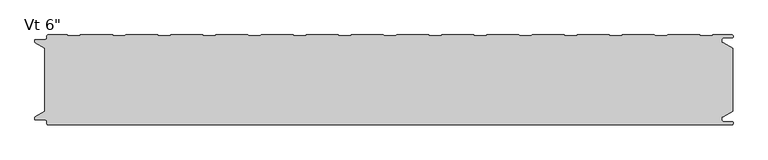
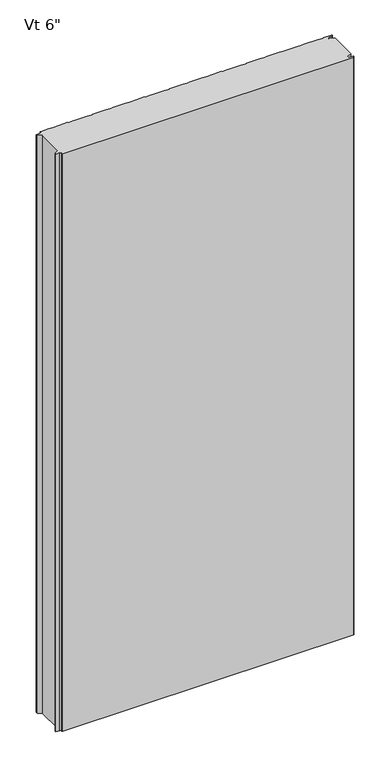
"""IFC4 building model written with IfcOpenShell, lengths in millimetres: plate geometry."""

import ifcopenshell
import ifcopenshell.guid

model = None  # the IFC model being written
_history = None  # IfcOwnerHistory: only IFC2X3 demands one
_inside = {}  # id of a spatial element -> (the spatial element, [elements in it])
_under = {}  # id of a project, library or spatial element -> (it, [spatial elements below it])
_declared = {}  # id of a project -> (the project, [libraries it declares])
_typed = {}  # id of a type object -> (the type object, [elements of that type])
_made_of = {}  # id of a material, layer set ... -> (it, [elements and type objects made of it])


def new_model(schema):
    """Start an empty IFC model of exactly this schema.

    Asked for "IFC4X3", IfcOpenShell would pick the latest addendum, in which some entities
    have other attributes; the version numbers below select the first issue.
    IFC2X3 requires an IfcOwnerHistory on every rooted entity: one is made here for all.
    """
    global model, _history
    if schema == "IFC4X3":
        model = ifcopenshell.file(schema_version=(4, 3, 0, 0))
    else:
        model = ifcopenshell.file(schema=schema)
    _inside.clear()
    _under.clear()
    _declared.clear()
    _typed.clear()
    _made_of.clear()
    _history = None
    if model.schema == "IFC2X3":
        org = make("IfcOrganization", Name="unknown")
        user = make(
            "IfcPersonAndOrganization",
            ThePerson=make("IfcPerson", FamilyName="unknown"),
            TheOrganization=org,
        )
        app = make(
            "IfcApplication",
            ApplicationDeveloper=org,
            Version="unknown",
            ApplicationFullName="unknown",
            ApplicationIdentifier="unknown",
        )
        _history = make(
            "IfcOwnerHistory",
            OwningUser=user,
            OwningApplication=app,
            ChangeAction="ADDED",
            CreationDate=0,
        )
    return model


def make(cls, **values):
    """One entity of the class cls with the attributes given. An attribute that is None is left unset."""
    return model.create_entity(
        cls, **{name: value for name, value in values.items() if value is not None}
    )


def rooted(cls, **values):
    """An entity with a GlobalId (a new one), such as an element, a storey or a relation."""
    return make(cls, GlobalId=ifcopenshell.guid.new(), OwnerHistory=_history, **values)


def si_unit(unit_type, name, prefix=None):
    """IfcSIUnit, for example si_unit("LENGTHUNIT", "METRE", prefix="MILLI")."""
    return make("IfcSIUnit", UnitType=unit_type, Prefix=prefix, Name=name)


def assignment(units):
    """IfcUnitAssignment: the units of a project."""
    return None if units is None else make("IfcUnitAssignment", Units=units)


def point(xyz):
    """IfcCartesianPoint."""
    return None if xyz is None else make("IfcCartesianPoint", Coordinates=xyz)


def direction(xyz):
    """IfcDirection."""
    return None if xyz is None else make("IfcDirection", DirectionRatios=xyz)


def frame(location, z_axis=None, x_axis=None):
    """IfcAxis2Placement3D, a coordinate frame: its origin and axes. An axis left out is left unset."""
    return make(
        "IfcAxis2Placement3D",
        Location=point(location),
        Axis=direction(z_axis),
        RefDirection=direction(x_axis),
    )


def origin():
    """The frame at (0, 0, 0) with its axes left unset."""
    return frame((0.0, 0.0, 0.0))


def place(relative_to, where):
    """IfcLocalPlacement: puts the frame where relative to a parent placement (None: the world)."""
    return make(
        "IfcLocalPlacement", PlacementRelTo=relative_to, RelativePlacement=where
    )


def context(
    kind, dimensions, precision=None, world=None, true_north=None, identifier=None
):
    """IfcGeometricRepresentationContext, for example the 3D "Model" context."""
    return make(
        "IfcGeometricRepresentationContext",
        ContextIdentifier=identifier,
        ContextType=kind,
        CoordinateSpaceDimension=dimensions,
        Precision=precision,
        WorldCoordinateSystem=world,
        TrueNorth=true_north,
    )


def project(units=None, contexts=None):
    """IfcProject with its units and contexts."""
    return rooted(
        "IfcProject",
        Name="project",
        RepresentationContexts=contexts,
        UnitsInContext=assignment(units),
    )


def spatial(cls, under=None, at=None, **own):
    """A site, building, storey or space (cls), placed at a placement, below another one or the project."""
    s = rooted(cls, ObjectPlacement=at, **own)
    if under is not None:
        _under.setdefault(under.id(), (under, []))[1].append(s)
    return s


def polyline(points):
    """IfcPolyline through the points."""
    return make("IfcPolyline", Points=[point(p) for p in points])


def circle_curve(where, radius):
    """IfcCircle in the frame where."""
    return make("IfcCircle", Position=where, Radius=radius)


def shape(context_of_items, identifier, shape_type, items):
    """IfcShapeRepresentation: the items that make up one representation, for example the "Body"."""
    return make(
        "IfcShapeRepresentation",
        ContextOfItems=context_of_items,
        RepresentationIdentifier=identifier,
        RepresentationType=shape_type,
        Items=items,
    )


def source(mapping_origin, context_of_items, identifier, shape_type, items):
    """IfcRepresentationMap: a shape defined once, which mapped items show again and again."""
    return make(
        "IfcRepresentationMap",
        MappingOrigin=mapping_origin,
        MappedRepresentation=shape(context_of_items, identifier, shape_type, items),
    )


def transform(
    local_origin,
    x_axis=None,
    y_axis=None,
    z_axis=None,
    scale=None,
    scale2=None,
    scale3=None,
    uniform=True,
):
    """IfcCartesianTransformationOperator3D, or its non-uniform kind. x_axis, y_axis, z_axis: its Axis1, 2, 3."""
    if uniform:
        return make(
            "IfcCartesianTransformationOperator3D",
            Axis1=direction(x_axis),
            Axis2=direction(y_axis),
            LocalOrigin=point(local_origin),
            Scale=scale,
            Axis3=direction(z_axis),
        )
    return make(
        "IfcCartesianTransformationOperator3DnonUniform",
        Axis1=direction(x_axis),
        Axis2=direction(y_axis),
        LocalOrigin=point(local_origin),
        Scale=scale,
        Axis3=direction(z_axis),
        Scale2=scale2,
        Scale3=scale3,
    )


def mapped(mapping_source, mapping_target):
    """IfcMappedItem: shows the shape of a source again, moved by a transform."""
    return make(
        "IfcMappedItem", MappingSource=mapping_source, MappingTarget=mapping_target
    )


def made_of(thing, what):
    """Note that an element or type object is made of a material, layer set ...; save() writes the relation."""
    if what is not None:
        _made_of.setdefault(what.id(), (what, []))[1].append(thing)
    return thing


def element(
    cls,
    number,
    at=None,
    inside=None,
    cuts=None,
    type_object=None,
    material=None,
    context=None,
    identifier="Body",
    shape_type=None,
    held_by="IfcProductDefinitionShape",
    body=None,
    shapes=None,
    **own,
):
    """One element of the class cls, such as IfcWall. Its Tag is "e" and its number.

    at: its placement. inside: the storey or other place that contains it. cuts: it is an
    opening in that element (IfcRelVoidsElement). A single representation is given by context,
    identifier, shape_type and body (its items); several are given by shapes. held_by: the class
    of the entity that holds the representations. save() writes the other relations.
    """
    e = rooted(cls, Tag="e%d" % number, ObjectPlacement=at, **own)
    if body is not None:
        shapes = [shape(context, identifier, shape_type, body)]
    if shapes is not None:
        e.Representation = make(held_by, Representations=shapes)
    if inside is not None:
        _inside.setdefault(inside.id(), (inside, []))[1].append(e)
    if cuts is not None:
        rooted(
            "IfcRelVoidsElement", RelatingBuildingElement=cuts, RelatedOpeningElement=e
        )
    if type_object is not None:
        _typed.setdefault(type_object.id(), (type_object, []))[1].append(e)
    return made_of(e, material)


def aggregate(whole, parts):
    """IfcRelAggregates: a whole, such as a stair, and the parts it consists of."""
    return rooted("IfcRelAggregates", RelatingObject=whole, RelatedObjects=parts)


def save(model, path):
    """Write the relations noted so far, then the file.

    IfcRelAggregates (storeys below a building ...), IfcRelContainedInSpatialStructure (elements
    in a storey), IfcRelDefinesByType, IfcRelAssociatesMaterial and IfcRelDeclares: one each for
    every whole, place, type object, material and project.
    """
    for whole, parts in _under.values():
        aggregate(whole, parts)
    for where, things in _inside.values():
        rooted(
            "IfcRelContainedInSpatialStructure",
            RelatedElements=things,
            RelatingStructure=where,
        )
    for kind, things in _typed.values():
        rooted("IfcRelDefinesByType", RelatedObjects=things, RelatingType=kind)
    for what, things in _made_of.values():
        rooted("IfcRelAssociatesMaterial", RelatedObjects=things, RelatingMaterial=what)
    for by, libraries in _declared.values():
        rooted("IfcRelDeclares", RelatingContext=by, RelatedDefinitions=libraries)
    model.write(path)


def plane_surface(at):
    """IfcPlane: the flat surface through the origin of the frame at, square to its z axis."""
    return make("IfcPlane", Position=at)


def cylinder_surface(at, radius):
    """IfcCylindricalSurface: all points at the distance radius from the z axis of the frame at."""
    return make("IfcCylindricalSurface", Position=at, Radius=radius)


def revolved_surface(curve, axis_point, axis_direction):
    """IfcSurfaceOfRevolution: the curve turned about the line through axis_point along axis_direction."""
    return make(
        "IfcSurfaceOfRevolution",
        SweptCurve=make("IfcArbitraryOpenProfileDef", ProfileType="CURVE", Curve=curve),
        AxisPosition=make("IfcAxis1Placement", Location=point(axis_point), Axis=direction(axis_direction)),
    )


def advanced_brep(points, edges, surfaces, faces):
    """IfcAdvancedBrep: a solid bounded by faces that lie on surfaces and meet in shared edges.

    An edge is (start, end): straight between two places in points (the first is 0);
    or (start, end, curve); or (start, end, curve, False) where it runs against its curve.
    A face is (place in surfaces, loops), or (place, loops, False) where it looks against
    its surface's normal. A loop lists edges by number (the first is 1), with a minus sign
    where the edge is run from its end to its start. The first loop is the outer one.
    """
    corners = [point(p) for p in points]
    vertices = [make("IfcVertexPoint", VertexGeometry=c) for c in corners]
    made = []
    for start, end, *more in edges:
        made.append(
            make(
                "IfcEdgeCurve",
                EdgeStart=vertices[start],
                EdgeEnd=vertices[end],
                EdgeGeometry=more[0] if more else make("IfcPolyline", Points=[corners[start], corners[end]]),
                SameSense=more[1] if len(more) > 1 else True,
            )
        )
    hull = []
    for where, loops, *sense in faces:
        bounds = []
        for j, loop in enumerate(loops):
            ring = [make("IfcOrientedEdge", EdgeElement=made[abs(k) - 1], Orientation=k > 0) for k in loop]
            bounds.append(
                make(
                    "IfcFaceOuterBound" if j == 0 else "IfcFaceBound",
                    Bound=make("IfcEdgeLoop", EdgeList=ring),
                    Orientation=True,
                )
            )
        hull.append(make("IfcAdvancedFace", Bounds=bounds, FaceSurface=surfaces[where], SameSense=sense[0] if sense else True))
    return make("IfcAdvancedBrep", Outer=make("IfcClosedShell", CfsFaces=hull))


def plate_39fb91ab(model_context):
    return source(origin(), model_context, "Body", "AdvancedBrep", [
        advanced_brep(
        [(-572.4125501, -149.4227194, 2400.0), (-570.4352761, -151.3999935, 2400.0), (574.5475652, -151.4, 2400.0), (576.5248337, -149.4227315, 2400.0), (576.5248337, -148.3806329, 2400.0), (574.5475652, -146.4033643, 2400.0), (560.3591802, -146.4033643, 2400.0), (557.7713036, -143.8154878, 2400.0), (557.7713036, -139.4950697, 2400.0), (557.1628365, -138.9060762, 2400.0), (554.7857432, -138.9060762, 2400.0), (554.7857432, -137.9066023, 2400.0), (560.2280123, -137.9066023, 2400.0), (576.2625, -128.6490865, 2400.0), (576.2625, -23.7509179, 2400.0), (560.2280123, -14.4934021, 2400.0), (554.7857432, -14.4934021, 2400.0), (554.7857432, -13.4939282, 2400.0), (557.1628365, -13.4939282, 2400.0), (557.7713036, -12.9049347, 2400.0), (557.7713036, -8.5845165, 2400.0), (560.3591802, -5.99664, 2400.0), (574.5475652, -5.99664, 2400.0), (576.5248337, -4.0193715, 2400.0), (576.5248337, -2.9772729, 2400.0), (574.5475652, -1.0000044, 2400.0), (542.3760351, -1.0000044, 2400.0), (541.3035142, -2.1911595, 2400.0), (521.5205195, -2.1911595, 2400.0), (520.4479947, -1.0, 2400.0), (466.7534187, -1.0, 2400.0), (465.6808939, -2.1911595, 2400.0), (445.8978992, -2.1911595, 2400.0), (444.8253744, -1.0, 2400.0), (391.1307985, -1.0, 2400.0), (390.0582736, -2.1911595, 2400.0), (370.275279, -2.1911595, 2400.0), (369.2027541, -1.0, 2400.0), (315.5081782, -1.0, 2400.0), (314.4356534, -2.1911595, 2400.0), (294.6526587, -2.1911595, 2400.0), (293.5801339, -1.0, 2400.0), (239.885558, -1.0, 2400.0), (238.8130331, -2.1911595, 2400.0), (219.0300384, -2.1911595, 2400.0), (217.9575136, -1.0, 2400.0), (164.2629377, -1.0, 2400.0), (163.1904129, -2.1911595, 2400.0), (143.4074182, -2.1911595, 2400.0), (142.3348933, -1.0, 2400.0), (88.6403174, -1.0, 2400.0), (87.5677926, -2.1911595, 2400.0), (67.7847979, -2.1911595, 2400.0), (66.7122731, -1.0, 2400.0), (13.0176972, -1.0, 2400.0), (11.9451723, -2.1911595, 2400.0), (-7.8378224, -2.1911595, 2400.0), (-8.9103472, -1.0, 2400.0), (-62.6049231, -1.0, 2400.0), (-63.6774479, -2.1911595, 2400.0), (-83.4604426, -2.1911595, 2400.0), (-84.5329675, -1.0, 2400.0), (-138.2275434, -1.0, 2400.0), (-139.3000682, -2.1911595, 2400.0), (-159.0830629, -2.1911595, 2400.0), (-160.1555877, -1.0, 2400.0), (-213.8501636, -1.0, 2400.0), (-214.9226885, -2.1911595, 2400.0), (-234.7056831, -2.1911595, 2400.0), (-235.778208, -1.0, 2400.0), (-289.4727839, -1.0, 2400.0), (-290.5453087, -2.1911595, 2400.0), (-310.3283034, -2.1911595, 2400.0), (-311.4008282, -1.0, 2400.0), (-365.0954042, -1.0, 2400.0), (-366.167929, -2.1911595, 2400.0), (-385.9509237, -2.1911595, 2400.0), (-387.0234485, -1.0, 2400.0), (-440.7180244, -1.0, 2400.0), (-441.7905493, -2.1911595, 2400.0), (-461.5735439, -2.1911595, 2400.0), (-462.6460688, -1.0, 2400.0), (-516.3406447, -1.0, 2400.0), (-517.4131695, -2.1911595, 2400.0), (-537.1961642, -2.1911595, 2400.0), (-538.268689, -1.0000109, 2400.0), (-570.4352761, -1.0000109, 2400.0), (-572.4125501, -2.9772849, 2400.0), (-572.4125501, -5.2691749, 2400.0), (-576.3898173, -9.246442, 2400.0), (-591.9862417, -9.246442, 2400.0), (-592.5741186, -9.8343189, 2400.0), (-592.5741186, -12.9058679, 2400.0), (-591.986242, -13.4937446, 2400.0), (-589.6312064, -13.4937446, 2400.0), (-589.6312064, -14.4937446, 2400.0), (-591.9207851, -14.4937446, 2400.0), (-576.2625, -23.7509179, 2400.0), (-576.2625, -128.6490865, 2400.0), (-591.9207851, -137.9062598, 2400.0), (-589.6312064, -137.9062598, 2400.0), (-589.6312064, -138.9062598, 2400.0), (-591.986242, -138.9062598, 2400.0), (-592.5741186, -139.4941365, 2400.0), (-592.5741186, -142.5656854, 2400.0), (-591.9862417, -143.1535623, 2400.0), (-576.3898173, -143.1535623, 2400.0), (-572.4125501, -147.1308295, 2400.0), (-572.4125501, -149.4227194, 0.0), (-572.4125501, -147.1308295, 0.0), (-576.3898173, -143.1535623, 0.0), (-591.9862417, -143.1535623, 0.0), (-592.5741186, -142.5656854, 0.0), (-592.5741186, -139.4941365, 0.0), (-591.986242, -138.9062598, 0.0), (-589.6312064, -138.9062598, 0.0), (-589.6312064, -137.9062598, 0.0), (-591.9207851, -137.9062598, 0.0), (-576.2625, -128.6490865, 0.0), (-576.2625, -23.7509179, 0.0), (-591.9207851, -14.4937446, 0.0), (-589.6312064, -14.4937446, 0.0), (-589.6312064, -13.4937446, 0.0), (-591.986242, -13.4937446, 0.0), (-592.5741186, -12.9058679, 0.0), (-592.5741186, -9.8343189, 0.0), (-591.9862417, -9.246442, 0.0), (-576.3898173, -9.246442, 0.0), (-572.4125501, -5.2691749, 0.0), (-572.4125501, -2.9772849, 0.0), (-570.4352761, -1.0000109, 0.0), (-538.268689, -1.0000109, 0.0), (-537.1961642, -2.1911595, 0.0), (-517.4131695, -2.1911595, 0.0), (-516.3406447, -1.0, 0.0), (-462.6460688, -1.0, 0.0), (-461.5735439, -2.1911595, 0.0), (-441.7905493, -2.1911595, 0.0), (-440.7180244, -1.0, 0.0), (-387.0234485, -1.0, 0.0), (-385.9509237, -2.1911595, 0.0), (-366.167929, -2.1911595, 0.0), (-365.0954042, -1.0, 0.0), (-311.4008282, -1.0, 0.0), (-310.3283034, -2.1911595, 0.0), (-290.5453087, -2.1911595, 0.0), (-289.4727839, -1.0, 0.0), (-235.778208, -1.0, 0.0), (-234.7056831, -2.1911595, 0.0), (-214.9226885, -2.1911595, 0.0), (-213.8501636, -1.0, 0.0), (-160.1555877, -1.0, 0.0), (-159.0830629, -2.1911595, 0.0), (-139.3000682, -2.1911595, 0.0), (-138.2275434, -1.0, 0.0), (-84.5329675, -1.0, 0.0), (-83.4604426, -2.1911595, 0.0), (-63.6774479, -2.1911595, 0.0), (-62.6049231, -1.0, 0.0), (-8.9103472, -1.0, 0.0), (-7.8378224, -2.1911595, 0.0), (11.9451723, -2.1911595, 0.0), (13.0176972, -1.0, 0.0), (66.7122731, -1.0, 0.0), (67.7847979, -2.1911595, 0.0), (87.5677926, -2.1911595, 0.0), (88.6403174, -1.0, 0.0), (142.3348933, -1.0, 0.0), (143.4074182, -2.1911595, 0.0), (163.1904129, -2.1911595, 0.0), (164.2629377, -1.0, 0.0), (217.9575136, -1.0, 0.0), (219.0300384, -2.1911595, 0.0), (238.8130331, -2.1911595, 0.0), (239.885558, -1.0, 0.0), (293.5801339, -1.0, 0.0), (294.6526587, -2.1911595, 0.0), (314.4356534, -2.1911595, 0.0), (315.5081782, -1.0, 0.0), (369.2027541, -1.0, 0.0), (370.275279, -2.1911595, 0.0), (390.0582736, -2.1911595, 0.0), (391.1307985, -1.0, 0.0), (444.8253744, -1.0, 0.0), (445.8978992, -2.1911595, 0.0), (465.6808939, -2.1911595, 0.0), (466.7534187, -1.0, 0.0), (520.4479947, -1.0, 0.0), (521.5205195, -2.1911595, 0.0), (541.3035142, -2.1911595, 0.0), (542.3760351, -1.0000044, 0.0), (574.5475652, -1.0000044, 0.0), (576.5248337, -2.9772729, 0.0), (576.5248337, -4.0193715, 0.0), (574.5475652, -5.99664, 0.0), (560.3591802, -5.99664, 0.0), (557.7713036, -8.5845165, 0.0), (557.7713036, -12.9049347, 0.0), (557.1628365, -13.4939282, 0.0), (554.7857432, -13.4939282, 0.0), (554.7857432, -14.4934021, 0.0), (560.2280123, -14.4934021, 0.0), (576.2625, -23.7509179, 0.0), (576.2625, -128.6490865, 0.0), (560.2280123, -137.9066023, 0.0), (554.7857432, -137.9066023, 0.0), (554.7857432, -138.9060762, 0.0), (557.1628365, -138.9060762, 0.0), (557.7713036, -139.4950697, 0.0), (557.7713036, -143.8154878, 0.0), (560.3591802, -146.4033643, 0.0), (574.5475652, -146.4033643, 0.0), (576.5248337, -148.3806329, 0.0), (576.5248337, -149.4227315, 0.0), (574.5475652, -151.4, 0.0), (-570.4352761, -151.4, 0.0)],
        [
            (0, 1, circle_curve(frame((-570.4352761, -149.4227194, 2400.0), z_axis=(0.0, 0.0, 1.0), x_axis=(-1.0, 0.0, 0.0)), 1.977274)),
            (1, 2),
            (2, 3, circle_curve(frame((574.5475652, -149.4227315, 2400.0), z_axis=(0.0, 0.0, 1.0), x_axis=(-1.0, 0.0, 0.0)), 1.9772685)),
            (3, 4),
            (4, 5, circle_curve(frame((574.5475652, -148.3806329, 2400.0), z_axis=(0.0, 0.0, 1.0), x_axis=(-1.0, 0.0, 0.0)), 1.9772685)),
            (5, 6),
            (6, 7, circle_curve(frame((560.3591802, -143.8154878, 2400.0), z_axis=(0.0, 0.0, -1.0), x_axis=(-1.0, 0.0, 0.0)), 2.5878765)),
            (7, 8),
            (8, 9, circle_curve(frame((557.1819985, -139.4950697, 2400.0), z_axis=(0.0, 0.0, 1.0), x_axis=(-1.0, 0.0, 0.0)), 0.5893051)),
            (9, 10),
            (10, 11),
            (11, 12),
            (12, 13),
            (13, 14),
            (14, 15),
            (15, 16),
            (16, 17),
            (17, 18),
            (18, 19, circle_curve(frame((557.1819985, -12.9049347, 2400.0), z_axis=(0.0, 0.0, 1.0), x_axis=(0.0, 1.0, 0.0)), 0.5893051)),
            (19, 20),
            (20, 21, circle_curve(frame((560.3591802, -8.5845165, 2400.0), z_axis=(0.0, 0.0, -1.0), x_axis=(0.0, 1.0, 0.0)), 2.5878765)),
            (21, 22),
            (22, 23, circle_curve(frame((574.5475652, -4.0193715, 2400.0), z_axis=(0.0, 0.0, 1.0), x_axis=(0.0, 1.0, 0.0)), 1.9772685)),
            (23, 24),
            (24, 25, circle_curve(frame((574.5475652, -2.9772729, 2400.0), z_axis=(0.0, 0.0, 1.0), x_axis=(0.0, 1.0, 0.0)), 1.9772685)),
            (25, 26),
            (26, 27),
            (27, 28),
            (28, 29),
            (29, 30),
            (30, 31),
            (31, 32),
            (32, 33),
            (33, 34),
            (34, 35),
            (35, 36),
            (36, 37),
            (37, 38),
            (38, 39),
            (39, 40),
            (40, 41),
            (41, 42),
            (42, 43),
            (43, 44),
            (44, 45),
            (45, 46),
            (46, 47),
            (47, 48),
            (48, 49),
            (49, 50),
            (50, 51),
            (51, 52),
            (52, 53),
            (53, 54),
            (54, 55),
            (55, 56),
            (56, 57),
            (57, 58),
            (58, 59),
            (59, 60),
            (60, 61),
            (61, 62),
            (62, 63),
            (63, 64),
            (64, 65),
            (65, 66),
            (66, 67),
            (67, 68),
            (68, 69),
            (69, 70),
            (70, 71),
            (71, 72),
            (72, 73),
            (73, 74),
            (74, 75),
            (75, 76),
            (76, 77),
            (77, 78),
            (78, 79),
            (79, 80),
            (80, 81),
            (81, 82),
            (82, 83),
            (83, 84),
            (84, 85),
            (85, 86),
            (86, 87, circle_curve(frame((-570.4352761, -2.9772849, 2400.0), z_axis=(0.0, 0.0, 1.0), x_axis=(0.0, 1.0, 0.0)), 1.977274)),
            (87, 88),
            (88, 89, circle_curve(frame((-576.3898173, -5.2691749, 2400.0), z_axis=(0.0, 0.0, -1.0), x_axis=(0.0, 1.0, 0.0)), 3.9772671)),
            (89, 90),
            (90, 91, circle_curve(frame((-591.9862417, -9.8343189, 2400.0), z_axis=(0.0, 0.0, 1.0), x_axis=(0.0, 1.0, 0.0)), 0.5878769)),
            (91, 92),
            (92, 93, circle_curve(frame((-591.986242, -12.9058679, 2400.0), z_axis=(0.0, 0.0, 1.0), x_axis=(0.0, 1.0, 0.0)), 0.5878766)),
            (93, 94),
            (94, 95),
            (95, 96),
            (96, 97),
            (97, 98),
            (98, 99),
            (99, 100),
            (100, 101),
            (101, 102),
            (102, 103, circle_curve(frame((-591.986242, -139.4941365, 2400.0), z_axis=(0.0, 0.0, 1.0), x_axis=(-1.0, 0.0, 0.0)), 0.5878766)),
            (103, 104),
            (104, 105, circle_curve(frame((-591.9862417, -142.5656854, 2400.0), z_axis=(0.0, 0.0, 1.0), x_axis=(-1.0, 0.0, 0.0)), 0.5878769)),
            (105, 106),
            (106, 107, circle_curve(frame((-576.3898173, -147.1308295, 2400.0), z_axis=(0.0, 0.0, -1.0), x_axis=(-1.0, 0.0, 0.0)), 3.9772671)),
            (107, 0),
            (108, 109),
            (109, 110, circle_curve(frame((-576.3898173, -147.1308295, 0.0), z_axis=(0.0, 0.0, 1.0), x_axis=(-1.0, 0.0, 0.0)), 3.9772671)),
            (110, 111),
            (111, 112, circle_curve(frame((-591.9862417, -142.5656854, 0.0), z_axis=(0.0, 0.0, -1.0), x_axis=(-1.0, 0.0, 0.0)), 0.5878769)),
            (112, 113),
            (113, 114, circle_curve(frame((-591.986242, -139.4941365, 0.0), z_axis=(0.0, 0.0, -1.0), x_axis=(-1.0, 0.0, 0.0)), 0.5878766)),
            (114, 115),
            (115, 116),
            (116, 117),
            (117, 118),
            (118, 119),
            (119, 120),
            (120, 121),
            (121, 122),
            (122, 123),
            (123, 124, circle_curve(frame((-591.986242, -12.9058679, 0.0), z_axis=(0.0, 0.0, -1.0), x_axis=(0.0, 1.0, 0.0)), 0.5878766)),
            (124, 125),
            (125, 126, circle_curve(frame((-591.9862417, -9.8343189, 0.0), z_axis=(0.0, 0.0, -1.0), x_axis=(0.0, 1.0, 0.0)), 0.5878769)),
            (126, 127),
            (127, 128, circle_curve(frame((-576.3898173, -5.2691749, 0.0), z_axis=(0.0, 0.0, 1.0), x_axis=(0.0, 1.0, 0.0)), 3.9772671)),
            (128, 129),
            (129, 130, circle_curve(frame((-570.4352761, -2.9772849, 0.0), z_axis=(0.0, 0.0, -1.0), x_axis=(0.0, 1.0, 0.0)), 1.977274)),
            (130, 131),
            (131, 132),
            (132, 133),
            (133, 134),
            (134, 135),
            (135, 136),
            (136, 137),
            (137, 138),
            (138, 139),
            (139, 140),
            (140, 141),
            (141, 142),
            (142, 143),
            (143, 144),
            (144, 145),
            (145, 146),
            (146, 147),
            (147, 148),
            (148, 149),
            (149, 150),
            (150, 151),
            (151, 152),
            (152, 153),
            (153, 154),
            (154, 155),
            (155, 156),
            (156, 157),
            (157, 158),
            (158, 159),
            (159, 160),
            (160, 161),
            (161, 162),
            (162, 163),
            (163, 164),
            (164, 165),
            (165, 166),
            (166, 167),
            (167, 168),
            (168, 169),
            (169, 170),
            (170, 171),
            (171, 172),
            (172, 173),
            (173, 174),
            (174, 175),
            (175, 176),
            (176, 177),
            (177, 178),
            (178, 179),
            (179, 180),
            (180, 181),
            (181, 182),
            (182, 183),
            (183, 184),
            (184, 185),
            (185, 186),
            (186, 187),
            (187, 188),
            (188, 189),
            (189, 190),
            (190, 191),
            (191, 192, circle_curve(frame((574.5475652, -2.9772729, 0.0), z_axis=(0.0, 0.0, -1.0), x_axis=(0.0, 1.0, 0.0)), 1.9772685)),
            (192, 193),
            (193, 194, circle_curve(frame((574.5475652, -4.0193715, 0.0), z_axis=(0.0, 0.0, -1.0), x_axis=(0.0, 1.0, 0.0)), 1.9772685)),
            (194, 195),
            (195, 196, circle_curve(frame((560.3591802, -8.5845165, 0.0), z_axis=(0.0, 0.0, 1.0), x_axis=(0.0, 1.0, 0.0)), 2.5878765)),
            (196, 197),
            (197, 198, circle_curve(frame((557.1819985, -12.9049347, 0.0), z_axis=(0.0, 0.0, -1.0), x_axis=(0.0, 1.0, 0.0)), 0.5893051)),
            (198, 199),
            (199, 200),
            (200, 201),
            (201, 202),
            (202, 203),
            (203, 204),
            (204, 205),
            (205, 206),
            (206, 207),
            (207, 208, circle_curve(frame((557.1819985, -139.4950697, 0.0), z_axis=(0.0, 0.0, -1.0), x_axis=(-1.0, 0.0, 0.0)), 0.5893051)),
            (208, 209),
            (209, 210, circle_curve(frame((560.3591802, -143.8154878, 0.0), z_axis=(0.0, 0.0, 1.0), x_axis=(-1.0, 0.0, 0.0)), 2.5878765)),
            (210, 211),
            (211, 212, circle_curve(frame((574.5475652, -148.3806329, 0.0), z_axis=(0.0, 0.0, -1.0), x_axis=(-1.0, 0.0, 0.0)), 1.9772685)),
            (212, 213),
            (213, 214, circle_curve(frame((574.5475652, -149.4227315, 0.0), z_axis=(0.0, 0.0, -1.0), x_axis=(-1.0, 0.0, 0.0)), 1.9772685)),
            (214, 215),
            (215, 108, circle_curve(frame((-570.4352761, -149.4227194, 0.0), z_axis=(0.0, 0.0, -1.0), x_axis=(-1.0, 0.0, 0.0)), 1.977274)),
            (97, 119),
            (118, 98),
            (13, 203),
            (202, 14),
            (27, 189),
            (188, 28),
            (26, 190),
            (25, 191),
            (24, 192),
            (23, 193),
            (22, 194),
            (21, 195),
            (20, 196),
            (19, 197),
            (18, 198),
            (17, 199),
            (16, 200),
            (15, 201),
            (96, 120),
            (95, 121),
            (94, 122),
            (93, 123),
            (92, 124),
            (91, 125),
            (90, 126),
            (89, 127),
            (88, 128),
            (87, 129),
            (86, 130),
            (85, 131),
            (84, 132),
            (83, 133),
            (82, 134),
            (81, 135),
            (80, 136),
            (79, 137),
            (78, 138),
            (77, 139),
            (76, 140),
            (75, 141),
            (74, 142),
            (73, 143),
            (72, 144),
            (71, 145),
            (70, 146),
            (69, 147),
            (68, 148),
            (67, 149),
            (66, 150),
            (65, 151),
            (64, 152),
            (63, 153),
            (62, 154),
            (61, 155),
            (60, 156),
            (59, 157),
            (58, 158),
            (57, 159),
            (56, 160),
            (55, 161),
            (54, 162),
            (53, 163),
            (52, 164),
            (51, 165),
            (50, 166),
            (49, 167),
            (48, 168),
            (47, 169),
            (46, 170),
            (45, 171),
            (44, 172),
            (43, 173),
            (42, 174),
            (41, 175),
            (40, 176),
            (39, 177),
            (38, 178),
            (37, 179),
            (36, 180),
            (35, 181),
            (34, 182),
            (33, 183),
            (32, 184),
            (31, 185),
            (30, 186),
            (29, 187),
            (107, 109),
            (108, 0),
            (106, 110),
            (105, 111),
            (104, 112),
            (103, 113),
            (102, 114),
            (101, 115),
            (100, 116),
            (99, 117),
            (12, 204),
            (11, 205),
            (10, 206),
            (9, 207),
            (8, 208),
            (7, 209),
            (6, 210),
            (5, 211),
            (4, 212),
            (3, 213),
            (2, 214),
            (1, 215),
        ],
        [
            plane_surface(frame((0.0, -151.4, 2400.0), z_axis=(0.0, 0.0, 1.0), x_axis=(0.0, -1.0, 0.0))),
            plane_surface(frame((0.0, -151.4, 0.0), z_axis=(0.0, 0.0, -1.0), x_axis=(0.0, -1.0, 0.0))),
            plane_surface(frame((-576.2625, -128.6490865, 2400.0), z_axis=(-1.0, 0.0, 0.0), x_axis=(0.0, 0.0, -1.0))),
            plane_surface(frame((576.2625, -23.7509179, 2400.0), z_axis=(1.0, 0.0, 0.0), x_axis=(0.0, 0.0, -1.0))),
            plane_surface(frame((521.5205195, -2.1911595, 2400.0), z_axis=(0.0, 1.0, 0.0), x_axis=(0.0, 0.0, -1.0))),
            plane_surface(frame((541.3035142, -2.1911595, 2400.0), z_axis=(-0.7431448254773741, 0.6691306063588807, 0.0), x_axis=(0.0, 0.0, -1.0))),
            plane_surface(frame((542.3760351, -1.0000044, 2400.0), z_axis=(0.0, 1.0, 0.0), x_axis=(0.0, 0.0, -1.0))),
            cylinder_surface(frame((574.5475652, -2.9772729, 2400.0), z_axis=(0.0, 0.0, 1.0), x_axis=(0.0, 1.0, 0.0)), 1.9772685),
            plane_surface(frame((576.5248337, -2.9772729, 2400.0), z_axis=(1.0, 0.0, 0.0), x_axis=(0.0, 0.0, -1.0))),
            cylinder_surface(frame((574.5475652, -4.0193715, 2400.0), z_axis=(0.0, 0.0, 1.0), x_axis=(0.0, 1.0, 0.0)), 1.9772685),
            plane_surface(frame((574.5475652, -5.99664, 2400.0), z_axis=(0.0, -1.0, 0.0), x_axis=(0.0, 0.0, -1.0))),
            revolved_surface(polyline([(560.3591802, -5.996639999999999, 0.0), (560.3591802, -5.996639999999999, 2400.0)]), (560.3591802, -8.5845165, 2400.0), (0.0, 0.0, -1.0)),
            plane_surface(frame((557.7713036, -8.5845165, 2400.0), z_axis=(1.0, 0.0, 0.0), x_axis=(0.0, 0.0, -1.0))),
            cylinder_surface(frame((557.1819985, -12.9049347, 2400.0), z_axis=(0.0, 0.0, 1.0), x_axis=(0.0, 1.0, 0.0)), 0.5893051),
            plane_surface(frame((557.1628365, -13.4939282, 2400.0), z_axis=(0.0, -1.0, 0.0), x_axis=(0.0, 0.0, -1.0))),
            plane_surface(frame((554.7857432, -13.4939282, 2400.0), z_axis=(1.0, 0.0, 0.0), x_axis=(0.0, 0.0, -1.0))),
            plane_surface(frame((554.7857432, -14.4934021, 2400.0), z_axis=(0.0, 1.0, 0.0), x_axis=(0.0, 0.0, -1.0))),
            plane_surface(frame((560.2280123, -14.4934021, 2400.0), z_axis=(0.5000000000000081, 0.866025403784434, 0.0), x_axis=(0.0, 0.0, -1.0))),
            plane_surface(frame((-576.2625, -23.7509179, 2400.0), z_axis=(-0.5089147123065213, -0.860816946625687, 0.0), x_axis=(0.0, 0.0, -1.0))),
            plane_surface(frame((-591.9207851, -14.4937446, 2400.0), z_axis=(0.0, 1.0, 0.0), x_axis=(0.0, 0.0, -1.0))),
            plane_surface(frame((-589.6312064, -14.4937446, 2400.0), z_axis=(-1.0, 0.0, 0.0), x_axis=(0.0, 0.0, -1.0))),
            plane_surface(frame((-589.6312064, -13.4937446, 2400.0), z_axis=(0.0, -1.0, 0.0), x_axis=(0.0, 0.0, -1.0))),
            cylinder_surface(frame((-591.986242, -12.9058679, 2400.0), z_axis=(0.0, 0.0, 1.0), x_axis=(0.0, 1.0, 0.0)), 0.5878766),
            plane_surface(frame((-592.5741186, -12.9058679, 2400.0), z_axis=(-1.0, 0.0, 0.0), x_axis=(0.0, 0.0, -1.0))),
            cylinder_surface(frame((-591.9862417, -9.8343189, 2400.0), z_axis=(0.0, 0.0, 1.0), x_axis=(0.0, 1.0, 0.0)), 0.5878769),
            plane_surface(frame((-591.9862417, -9.246442, 2400.0), z_axis=(0.0, 1.0, 0.0), x_axis=(0.0, 0.0, -1.0))),
            revolved_surface(polyline([(-576.3898173, -1.2919078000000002, 0.0), (-576.3898173, -1.2919078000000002, 2400.0)]), (-576.3898173, -5.2691749, 2400.0), (0.0, 0.0, -1.0)),
            plane_surface(frame((-572.4125501, -5.2691749, 2400.0), z_axis=(-1.0, 0.0, 0.0), x_axis=(0.0, 0.0, -1.0))),
            cylinder_surface(frame((-570.4352761, -2.9772849, 2400.0), z_axis=(0.0, 0.0, 1.0), x_axis=(0.0, 1.0, 0.0)), 1.977274),
            plane_surface(frame((-570.4352761, -1.0000109, 2400.0), z_axis=(0.0, 1.0, 0.0), x_axis=(0.0, 0.0, -1.0))),
            plane_surface(frame((-538.268689, -1.0000109, 2400.0), z_axis=(0.7431417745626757, 0.669133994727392, 0.0), x_axis=(0.0, 0.0, -1.0))),
            plane_surface(frame((-537.1961642, -2.1911595, 2400.0), z_axis=(0.0, 1.0, 0.0), x_axis=(0.0, 0.0, -1.0))),
            plane_surface(frame((-517.4131695, -2.1911595, 2400.0), z_axis=(-0.7431448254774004, 0.6691306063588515, 0.0), x_axis=(0.0, 0.0, -1.0))),
            plane_surface(frame((-516.3406447, -1.0, 2400.0), z_axis=(0.0, 1.0, 0.0), x_axis=(0.0, 0.0, -1.0))),
            plane_surface(frame((-462.6460688, -1.0, 2400.0), z_axis=(0.7431448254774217, 0.6691306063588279, 0.0), x_axis=(0.0, 0.0, -1.0))),
            plane_surface(frame((-461.5735439, -2.1911595, 2400.0), z_axis=(0.0, 1.0, 0.0), x_axis=(0.0, 0.0, -1.0))),
            plane_surface(frame((-441.7905493, -2.1911595, 2400.0), z_axis=(-0.7431448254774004, 0.6691306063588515, 0.0), x_axis=(0.0, 0.0, -1.0))),
            plane_surface(frame((-440.7180244, -1.0, 2400.0), z_axis=(0.0, 1.0, 0.0), x_axis=(0.0, 0.0, -1.0))),
            plane_surface(frame((-387.0234485, -1.0, 2400.0), z_axis=(0.7431448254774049, 0.6691306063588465, 0.0), x_axis=(0.0, 0.0, -1.0))),
            plane_surface(frame((-385.9509237, -2.1911595, 2400.0), z_axis=(0.0, 1.0, 0.0), x_axis=(0.0, 0.0, -1.0))),
            plane_surface(frame((-366.167929, -2.1911595, 2400.0), z_axis=(-0.7431448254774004, 0.6691306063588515, 0.0), x_axis=(0.0, 0.0, -1.0))),
            plane_surface(frame((-365.0954042, -1.0, 2400.0), z_axis=(0.0, 1.0, 0.0), x_axis=(0.0, 0.0, -1.0))),
            plane_surface(frame((-311.4008282, -1.0, 2400.0), z_axis=(0.7431448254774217, 0.6691306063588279, 0.0), x_axis=(0.0, 0.0, -1.0))),
            plane_surface(frame((-310.3283034, -2.1911595, 2400.0), z_axis=(0.0, 1.0, 0.0), x_axis=(0.0, 0.0, -1.0))),
            plane_surface(frame((-290.5453087, -2.1911595, 2400.0), z_axis=(-0.7431448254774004, 0.6691306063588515, 0.0), x_axis=(0.0, 0.0, -1.0))),
            plane_surface(frame((-289.4727839, -1.0, 2400.0), z_axis=(0.0, 1.0, 0.0), x_axis=(0.0, 0.0, -1.0))),
            plane_surface(frame((-235.778208, -1.0, 2400.0), z_axis=(0.7431448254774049, 0.6691306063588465, 0.0), x_axis=(0.0, 0.0, -1.0))),
            plane_surface(frame((-234.7056831, -2.1911595, 2400.0), z_axis=(0.0, 1.0, 0.0), x_axis=(0.0, 0.0, -1.0))),
            plane_surface(frame((-214.9226885, -2.1911595, 2400.0), z_axis=(-0.7431448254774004, 0.6691306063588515, 0.0), x_axis=(0.0, 0.0, -1.0))),
            plane_surface(frame((-213.8501636, -1.0, 2400.0), z_axis=(0.0, 1.0, 0.0), x_axis=(0.0, 0.0, -1.0))),
            plane_surface(frame((-160.1555877, -1.0, 2400.0), z_axis=(0.7431448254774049, 0.6691306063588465, 0.0), x_axis=(0.0, 0.0, -1.0))),
            plane_surface(frame((-159.0830629, -2.1911595, 2400.0), z_axis=(0.0, 1.0, 0.0), x_axis=(0.0, 0.0, -1.0))),
            plane_surface(frame((-139.3000682, -2.1911595, 2400.0), z_axis=(-0.7431448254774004, 0.6691306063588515, 0.0), x_axis=(0.0, 0.0, -1.0))),
            plane_surface(frame((-138.2275434, -1.0, 2400.0), z_axis=(0.0, 1.0, 0.0), x_axis=(0.0, 0.0, -1.0))),
            plane_surface(frame((-84.5329675, -1.0, 2400.0), z_axis=(0.7431448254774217, 0.6691306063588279, 0.0), x_axis=(0.0, 0.0, -1.0))),
            plane_surface(frame((-83.4604426, -2.1911595, 2400.0), z_axis=(0.0, 1.0, 0.0), x_axis=(0.0, 0.0, -1.0))),
            plane_surface(frame((-63.6774479, -2.1911595, 2400.0), z_axis=(-0.7431448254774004, 0.6691306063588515, 0.0), x_axis=(0.0, 0.0, -1.0))),
            plane_surface(frame((-62.6049231, -1.0, 2400.0), z_axis=(0.0, 1.0, 0.0), x_axis=(0.0, 0.0, -1.0))),
            plane_surface(frame((-8.9103472, -1.0, 2400.0), z_axis=(0.7431448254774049, 0.6691306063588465, 0.0), x_axis=(0.0, 0.0, -1.0))),
            plane_surface(frame((-7.8378224, -2.1911595, 2400.0), z_axis=(0.0, 1.0, 0.0), x_axis=(0.0, 0.0, -1.0))),
            plane_surface(frame((11.9451723, -2.1911595, 2400.0), z_axis=(-0.7431448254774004, 0.6691306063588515, 0.0), x_axis=(0.0, 0.0, -1.0))),
            plane_surface(frame((13.0176972, -1.0, 2400.0), z_axis=(0.0, 1.0, 0.0), x_axis=(0.0, 0.0, -1.0))),
            plane_surface(frame((66.7122731, -1.0, 2400.0), z_axis=(0.7431448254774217, 0.6691306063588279, 0.0), x_axis=(0.0, 0.0, -1.0))),
            plane_surface(frame((67.7847979, -2.1911595, 2400.0), z_axis=(0.0, 1.0, 0.0), x_axis=(0.0, 0.0, -1.0))),
            plane_surface(frame((87.5677926, -2.1911595, 2400.0), z_axis=(-0.7431448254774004, 0.6691306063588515, 0.0), x_axis=(0.0, 0.0, -1.0))),
            plane_surface(frame((88.6403174, -1.0, 2400.0), z_axis=(0.0, 1.0, 0.0), x_axis=(0.0, 0.0, -1.0))),
            plane_surface(frame((142.3348933, -1.0, 2400.0), z_axis=(0.7431448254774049, 0.6691306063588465, 0.0), x_axis=(0.0, 0.0, -1.0))),
            plane_surface(frame((143.4074182, -2.1911595, 2400.0), z_axis=(0.0, 1.0, 0.0), x_axis=(0.0, 0.0, -1.0))),
            plane_surface(frame((163.1904129, -2.1911595, 2400.0), z_axis=(-0.7431448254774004, 0.6691306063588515, 0.0), x_axis=(0.0, 0.0, -1.0))),
            plane_surface(frame((164.2629377, -1.0, 2400.0), z_axis=(0.0, 1.0, 0.0), x_axis=(0.0, 0.0, -1.0))),
            plane_surface(frame((217.9575136, -1.0, 2400.0), z_axis=(0.7431448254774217, 0.6691306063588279, 0.0), x_axis=(0.0, 0.0, -1.0))),
            plane_surface(frame((219.0300384, -2.1911595, 2400.0), z_axis=(0.0, 1.0, 0.0), x_axis=(0.0, 0.0, -1.0))),
            plane_surface(frame((238.8130331, -2.1911595, 2400.0), z_axis=(-0.7431448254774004, 0.6691306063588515, 0.0), x_axis=(0.0, 0.0, -1.0))),
            plane_surface(frame((239.885558, -1.0, 2400.0), z_axis=(0.0, 1.0, 0.0), x_axis=(0.0, 0.0, -1.0))),
            plane_surface(frame((293.5801339, -1.0, 2400.0), z_axis=(0.7431448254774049, 0.6691306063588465, 0.0), x_axis=(0.0, 0.0, -1.0))),
            plane_surface(frame((294.6526587, -2.1911595, 2400.0), z_axis=(0.0, 1.0, 0.0), x_axis=(0.0, 0.0, -1.0))),
            plane_surface(frame((314.4356534, -2.1911595, 2400.0), z_axis=(-0.7431448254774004, 0.6691306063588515, 0.0), x_axis=(0.0, 0.0, -1.0))),
            plane_surface(frame((315.5081782, -1.0, 2400.0), z_axis=(0.0, 1.0, 0.0), x_axis=(0.0, 0.0, -1.0))),
            plane_surface(frame((369.2027541, -1.0, 2400.0), z_axis=(0.7431448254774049, 0.6691306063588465, 0.0), x_axis=(0.0, 0.0, -1.0))),
            plane_surface(frame((370.275279, -2.1911595, 2400.0), z_axis=(0.0, 1.0, 0.0), x_axis=(0.0, 0.0, -1.0))),
            plane_surface(frame((390.0582736, -2.1911595, 2400.0), z_axis=(-0.7431448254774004, 0.6691306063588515, 0.0), x_axis=(0.0, 0.0, -1.0))),
            plane_surface(frame((391.1307985, -1.0, 2400.0), z_axis=(0.0, 1.0, 0.0), x_axis=(0.0, 0.0, -1.0))),
            plane_surface(frame((444.8253744, -1.0, 2400.0), z_axis=(0.7431448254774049, 0.6691306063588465, 0.0), x_axis=(0.0, 0.0, -1.0))),
            plane_surface(frame((445.8978992, -2.1911595, 2400.0), z_axis=(0.0, 1.0, 0.0), x_axis=(0.0, 0.0, -1.0))),
            plane_surface(frame((465.6808939, -2.1911595, 2400.0), z_axis=(-0.7431448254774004, 0.6691306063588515, 0.0), x_axis=(0.0, 0.0, -1.0))),
            plane_surface(frame((466.7534187, -1.0, 2400.0), z_axis=(0.0, 1.0, 0.0), x_axis=(0.0, 0.0, -1.0))),
            plane_surface(frame((520.4479947, -1.0, 2400.0), z_axis=(0.7431448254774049, 0.6691306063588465, 0.0), x_axis=(0.0, 0.0, -1.0))),
            plane_surface(frame((-572.4125501, -149.4227194, 2400.0), z_axis=(-1.0, 0.0, 0.0), x_axis=(0.0, 0.0, -1.0))),
            revolved_surface(polyline([(-580.3670844, -147.1308295, 0.0), (-580.3670844, -147.1308295, 2400.0)]), (-576.3898173, -147.1308295, 2400.0), (0.0, 0.0, -1.0)),
            plane_surface(frame((-576.3898173, -143.1535623, 2400.0), z_axis=(0.0, -1.0, 0.0), x_axis=(0.0, 0.0, -1.0))),
            cylinder_surface(frame((-591.9862417, -142.5656854, 2400.0), z_axis=(0.0, 0.0, 1.0), x_axis=(-1.0, 0.0, 0.0)), 0.5878769),
            plane_surface(frame((-592.5741186, -142.5656854, 2400.0), z_axis=(-1.0, 0.0, 0.0), x_axis=(0.0, 0.0, -1.0))),
            cylinder_surface(frame((-591.986242, -139.4941365, 2400.0), z_axis=(0.0, 0.0, 1.0), x_axis=(-1.0, 0.0, 0.0)), 0.5878766),
            plane_surface(frame((-591.986242, -138.9062598, 2400.0), z_axis=(0.0, 1.0, 0.0), x_axis=(0.0, 0.0, -1.0))),
            plane_surface(frame((-589.6312064, -138.9062598, 2400.0), z_axis=(-1.0, 0.0, 0.0), x_axis=(0.0, 0.0, -1.0))),
            plane_surface(frame((-589.6312064, -137.9062598, 2400.0), z_axis=(0.0, -1.0, 0.0), x_axis=(0.0, 0.0, -1.0))),
            plane_surface(frame((-591.9207851, -137.9062598, 2400.0), z_axis=(-0.5089147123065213, 0.860816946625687, 0.0), x_axis=(0.0, 0.0, -1.0))),
            plane_surface(frame((576.2625, -128.6490865, 2400.0), z_axis=(0.500000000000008, -0.866025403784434, 0.0), x_axis=(0.0, 0.0, -1.0))),
            plane_surface(frame((560.2280123, -137.9066023, 2400.0), z_axis=(0.0, -1.0, 0.0), x_axis=(0.0, 0.0, -1.0))),
            plane_surface(frame((554.7857432, -137.9066023, 2400.0), z_axis=(1.0, 0.0, 0.0), x_axis=(0.0, 0.0, -1.0))),
            plane_surface(frame((554.7857432, -138.9060762, 2400.0), z_axis=(0.0, 1.0, 0.0), x_axis=(0.0, 0.0, -1.0))),
            cylinder_surface(frame((557.1819985, -139.4950697, 2400.0), z_axis=(0.0, 0.0, 1.0), x_axis=(-1.0, 0.0, 0.0)), 0.5893051),
            plane_surface(frame((557.7713036, -139.4950697, 2400.0), z_axis=(1.0, 0.0, 0.0), x_axis=(0.0, 0.0, -1.0))),
            revolved_surface(polyline([(557.7713037, -143.8154878, 0.0), (557.7713037, -143.8154878, 2400.0)]), (560.3591802, -143.8154878, 2400.0), (0.0, 0.0, -1.0)),
            plane_surface(frame((560.3591802, -146.4033643, 2400.0), z_axis=(0.0, 1.0, 0.0), x_axis=(0.0, 0.0, -1.0))),
            cylinder_surface(frame((574.5475652, -148.3806329, 2400.0), z_axis=(0.0, 0.0, 1.0), x_axis=(-1.0, 0.0, 0.0)), 1.9772685),
            plane_surface(frame((576.5248337, -148.3806329, 2400.0), z_axis=(1.0, 0.0, 0.0), x_axis=(0.0, 0.0, -1.0))),
            cylinder_surface(frame((574.5475652, -149.4227315, 2400.0), z_axis=(0.0, 0.0, 1.0), x_axis=(-1.0, 0.0, 0.0)), 1.9772685),
            plane_surface(frame((574.5475652, -151.4, 2400.0), z_axis=(0.0, -1.0, 0.0), x_axis=(0.0, 0.0, -1.0))),
            cylinder_surface(frame((-570.4352761, -149.4227194, 2400.0), z_axis=(0.0, 0.0, 1.0), x_axis=(-1.0, 0.0, 0.0)), 1.977274),
        ],
        [
            (0, [[1, 2, 3, 4, 5, 6, 7, 8, 9, 10, 11, 12, 13, 14, 15, 16, 17, 18, 19, 20, 21, 22, 23, 24, 25, 26, 27, 28, 29, 30, 31, 32, 33, 34, 35, 36, 37, 38, 39, 40, 41, 42, 43, 44, 45, 46, 47, 48, 49, 50, 51, 52, 53, 54, 55, 56, 57, 58, 59, 60, 61, 62, 63, 64, 65, 66, 67, 68, 69, 70, 71, 72, 73, 74, 75, 76, 77, 78, 79, 80, 81, 82, 83, 84, 85, 86, 87, 88, 89, 90, 91, 92, 93, 94, 95, 96, 97, 98, 99, 100, 101, 102, 103, 104, 105, 106, 107, 108]]),
            (1, [[109, 110, 111, 112, 113, 114, 115, 116, 117, 118, 119, 120, 121, 122, 123, 124, 125, 126, 127, 128, 129, 130, 131, 132, 133, 134, 135, 136, 137, 138, 139, 140, 141, 142, 143, 144, 145, 146, 147, 148, 149, 150, 151, 152, 153, 154, 155, 156, 157, 158, 159, 160, 161, 162, 163, 164, 165, 166, 167, 168, 169, 170, 171, 172, 173, 174, 175, 176, 177, 178, 179, 180, 181, 182, 183, 184, 185, 186, 187, 188, 189, 190, 191, 192, 193, 194, 195, 196, 197, 198, 199, 200, 201, 202, 203, 204, 205, 206, 207, 208, 209, 210, 211, 212, 213, 214, 215, 216]]),
            (2, [[217, -119, 218, -98]]),
            (3, [[219, -203, 220, -14]]),
            (4, [[221, -189, 222, -28]]),
            (5, [[223, -190, -221, -27]]),
            (6, [[224, -191, -223, -26]]),
            (7, [[225, -192, -224, -25]]),
            (8, [[226, -193, -225, -24]]),
            (9, [[227, -194, -226, -23]]),
            (10, [[228, -195, -227, -22]]),
            (11, [[229, -196, -228, -21]]),
            (12, [[230, -197, -229, -20]]),
            (13, [[231, -198, -230, -19]]),
            (14, [[232, -199, -231, -18]]),
            (15, [[233, -200, -232, -17]]),
            (16, [[234, -201, -233, -16]]),
            (17, [[-220, -202, -234, -15]]),
            (18, [[235, -120, -217, -97]]),
            (19, [[236, -121, -235, -96]]),
            (20, [[237, -122, -236, -95]]),
            (21, [[238, -123, -237, -94]]),
            (22, [[239, -124, -238, -93]]),
            (23, [[240, -125, -239, -92]]),
            (24, [[241, -126, -240, -91]]),
            (25, [[242, -127, -241, -90]]),
            (26, [[243, -128, -242, -89]]),
            (27, [[244, -129, -243, -88]]),
            (28, [[245, -130, -244, -87]]),
            (29, [[246, -131, -245, -86]]),
            (30, [[247, -132, -246, -85]]),
            (31, [[248, -133, -247, -84]]),
            (32, [[249, -134, -248, -83]]),
            (33, [[250, -135, -249, -82]]),
            (34, [[251, -136, -250, -81]]),
            (35, [[252, -137, -251, -80]]),
            (36, [[253, -138, -252, -79]]),
            (37, [[254, -139, -253, -78]]),
            (38, [[255, -140, -254, -77]]),
            (39, [[256, -141, -255, -76]]),
            (40, [[257, -142, -256, -75]]),
            (41, [[258, -143, -257, -74]]),
            (42, [[259, -144, -258, -73]]),
            (43, [[260, -145, -259, -72]]),
            (44, [[261, -146, -260, -71]]),
            (45, [[262, -147, -261, -70]]),
            (46, [[263, -148, -262, -69]]),
            (47, [[264, -149, -263, -68]]),
            (48, [[265, -150, -264, -67]]),
            (49, [[266, -151, -265, -66]]),
            (50, [[267, -152, -266, -65]]),
            (51, [[268, -153, -267, -64]]),
            (52, [[269, -154, -268, -63]]),
            (53, [[270, -155, -269, -62]]),
            (54, [[271, -156, -270, -61]]),
            (55, [[272, -157, -271, -60]]),
            (56, [[273, -158, -272, -59]]),
            (57, [[274, -159, -273, -58]]),
            (58, [[275, -160, -274, -57]]),
            (59, [[276, -161, -275, -56]]),
            (60, [[277, -162, -276, -55]]),
            (61, [[278, -163, -277, -54]]),
            (62, [[279, -164, -278, -53]]),
            (63, [[280, -165, -279, -52]]),
            (64, [[281, -166, -280, -51]]),
            (65, [[282, -167, -281, -50]]),
            (66, [[283, -168, -282, -49]]),
            (67, [[284, -169, -283, -48]]),
            (68, [[285, -170, -284, -47]]),
            (69, [[286, -171, -285, -46]]),
            (70, [[287, -172, -286, -45]]),
            (71, [[288, -173, -287, -44]]),
            (72, [[289, -174, -288, -43]]),
            (73, [[290, -175, -289, -42]]),
            (74, [[291, -176, -290, -41]]),
            (75, [[292, -177, -291, -40]]),
            (76, [[293, -178, -292, -39]]),
            (77, [[294, -179, -293, -38]]),
            (78, [[295, -180, -294, -37]]),
            (79, [[296, -181, -295, -36]]),
            (80, [[297, -182, -296, -35]]),
            (81, [[298, -183, -297, -34]]),
            (82, [[299, -184, -298, -33]]),
            (83, [[300, -185, -299, -32]]),
            (84, [[301, -186, -300, -31]]),
            (85, [[302, -187, -301, -30]]),
            (86, [[-222, -188, -302, -29]]),
            (87, [[303, -109, 304, -108]]),
            (88, [[305, -110, -303, -107]]),
            (89, [[306, -111, -305, -106]]),
            (90, [[307, -112, -306, -105]]),
            (91, [[308, -113, -307, -104]]),
            (92, [[309, -114, -308, -103]]),
            (93, [[310, -115, -309, -102]]),
            (94, [[311, -116, -310, -101]]),
            (95, [[312, -117, -311, -100]]),
            (96, [[-218, -118, -312, -99]]),
            (97, [[313, -204, -219, -13]]),
            (98, [[314, -205, -313, -12]]),
            (99, [[315, -206, -314, -11]]),
            (100, [[316, -207, -315, -10]]),
            (101, [[317, -208, -316, -9]]),
            (102, [[318, -209, -317, -8]]),
            (103, [[319, -210, -318, -7]]),
            (104, [[320, -211, -319, -6]]),
            (105, [[321, -212, -320, -5]]),
            (106, [[322, -213, -321, -4]]),
            (107, [[323, -214, -322, -3]]),
            (108, [[324, -215, -323, -2]]),
            (109, [[-304, -216, -324, -1]]),
        ],
    ),
    ])


if __name__ == "__main__":
    model = new_model("IFC4")
    model_context = context("Model", 3, world=origin())
    ifc_project = project(units=[si_unit("LENGTHUNIT", "METRE", prefix="MILLI")], contexts=[model_context])
    site = spatial("IfcSite", under=ifc_project)
    building = spatial("IfcBuilding", under=site)
    placement = place(None, origin())
    plate_shape = plate_39fb91ab(model_context)
    element("IfcPlate", 1, ObjectType="KIP-SLI-FLI-R19-CP-Vt-FL_SL : Vt 6\"", at=placement, inside=building, context=model_context, shape_type="MappedRepresentation", body=[
        mapped(plate_shape, transform((0.0, 0.0, 0.0), x_axis=(1.0, 0.0, 0.0), y_axis=(0.0, 1.0, 0.0), z_axis=(0.0, 0.0, 1.0))),
    ])
    save(model, "model.ifc")
